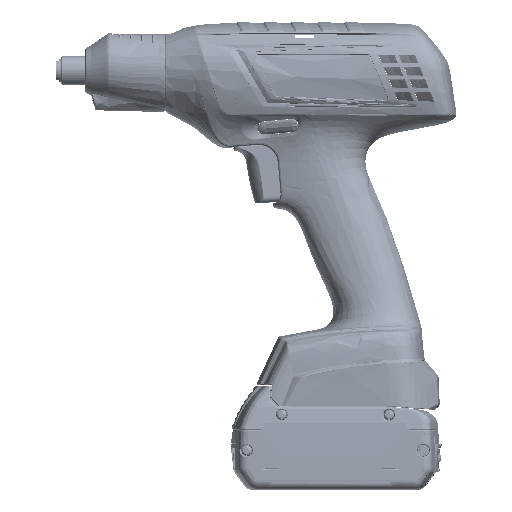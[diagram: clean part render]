
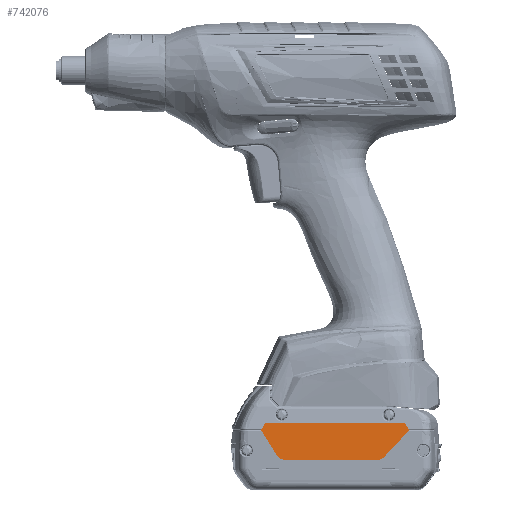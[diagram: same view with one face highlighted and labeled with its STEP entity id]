
A CAD part, top view. The second image highlights one B-rep face of the part: STEP entity #742076.
In plain terms, the highlighted planar face has unit normal (0, 0.018, 1) as drawn and (1, 0, -0.017) by its records, which use the part's own axes.
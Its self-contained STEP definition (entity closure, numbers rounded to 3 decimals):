
#579161=DIRECTION('',(0.,1.,0.));
#579162=VECTOR('',#579161,72.783);
#579163=CARTESIAN_POINT('',(36.351,-8.822,8.6));
#579164=LINE('21674',#579163,#579162);
#579225=DIRECTION('',(-0.013,-0.684,
-0.729));
#579226=VECTOR('',#579225,19.551);
#579227=CARTESIAN_POINT('',(36.672,1.088,
27.02));
#579228=LINE('20189',#579227,#579226);
#579229=CARTESIAN_POINT('',(36.7,4.736,28.6));
#579230=CARTESIAN_POINT('',(36.7,4.375,28.6));
#579231=CARTESIAN_POINT('',(36.699,3.686,
28.523));
#579232=CARTESIAN_POINT('',(36.693,2.736,
28.218));
#579233=CARTESIAN_POINT('',(36.685,1.863,
27.733));
#579234=CARTESIAN_POINT('',(36.677,1.335,
27.283));
#579235=CARTESIAN_POINT('',(36.672,1.088,
27.02));
#579237=CARTESIAN_POINT('',(36.659,59.039,
26.25));
#579238=CARTESIAN_POINT('',(36.666,58.794,
26.642));
#579239=CARTESIAN_POINT('',(36.677,58.236,
27.301));
#579240=CARTESIAN_POINT('',(36.69,57.246,
28.015));
#579241=CARTESIAN_POINT('',(36.698,56.116,
28.476));
#579242=CARTESIAN_POINT('',(36.7,55.261,28.6));
#579243=CARTESIAN_POINT('',(36.7,54.799,28.6));
#579245=DIRECTION('',(0.015,-0.53,0.848));
#579246=VECTOR('',#579245,15.821);
#579247=CARTESIAN_POINT('',(36.425,67.423,12.835));
#579248=LINE('20188',#579247,#579246);
#579249=DIRECTION('',(-0.015,0.53,-0.848));
#579250=VECTOR('',#579249,3.332);
#579251=CARTESIAN_POINT('',(36.417,-12.283,12.365));
#579252=LINE('21673',#579251,#579250);
#579281=CARTESIAN_POINT('',(36.351,-8.822,8.6));
#579282=CARTESIAN_POINT('',(36.351,-9.006,8.6));
#579283=CARTESIAN_POINT('',(36.352,-9.348,
8.65));
#579284=CARTESIAN_POINT('',(36.355,-9.8,
8.834));
#579285=CARTESIAN_POINT('',(36.36,-10.196,
9.12));
#579286=CARTESIAN_POINT('',(36.365,-10.42,
9.383));
#579287=CARTESIAN_POINT('',(36.367,-10.518,
9.54));
#580549=DIRECTION('',(0.,1.,0.));
#580550=VECTOR('',#580549,0.061);
#580551=CARTESIAN_POINT('',(36.421,-12.707,12.6));
#580552=LINE('21882',#580551,#580550);
#619469=DIRECTION('',(0.015,0.53,0.848));
#619470=VECTOR('',#619469,3.332);
#619471=CARTESIAN_POINT('',(36.367,65.658,
9.54));
#619472=LINE('21677',#619471,#619470);
#619512=CARTESIAN_POINT('',(36.421,67.847,12.6));
#619513=CARTESIAN_POINT('',(36.421,67.755,12.6));
#619514=CARTESIAN_POINT('',(36.42,67.596,
12.553));
#619515=CARTESIAN_POINT('',(36.418,67.472,
12.443));
#619516=CARTESIAN_POINT('',(36.417,67.423,12.365));
#619518=CARTESIAN_POINT('',(36.421,67.847,12.6));
#619519=CARTESIAN_POINT('',(36.421,67.755,12.6));
#619520=CARTESIAN_POINT('',(36.422,67.596,
12.647));
#619521=CARTESIAN_POINT('',(36.423,67.472,
12.757));
#619522=CARTESIAN_POINT('',(36.425,67.423,12.835));
#620927=DIRECTION('',(0.,-1.,0.));
#620928=VECTOR('',#620927,50.063);
#620929=CARTESIAN_POINT('',(36.7,54.799,28.6));
#620930=LINE('20280',#620929,#620928);
#620946=CARTESIAN_POINT('',(36.423,-12.282,
12.758));
#620947=CARTESIAN_POINT('',(36.423,-12.331,
12.705));
#620948=CARTESIAN_POINT('',(36.421,-12.443,
12.63));
#620949=CARTESIAN_POINT('',(36.421,-12.574,12.6));
#620950=CARTESIAN_POINT('',(36.421,-12.647,12.6));
#624011=CARTESIAN_POINT('',(36.367,65.658,
9.54));
#624012=CARTESIAN_POINT('',(36.365,65.56,
9.383));
#624013=CARTESIAN_POINT('',(36.36,65.336,
9.12));
#624014=CARTESIAN_POINT('',(36.355,64.94,
8.834));
#624015=CARTESIAN_POINT('',(36.352,64.488,
8.65));
#624016=CARTESIAN_POINT('',(36.351,64.146,8.6));
#624017=CARTESIAN_POINT('',(36.351,63.962,8.6));
#678915=CARTESIAN_POINT('',(36.421,-12.707,12.6));
#678916=CARTESIAN_POINT('',(36.421,-12.615,12.6));
#678917=CARTESIAN_POINT('',(36.42,-12.456,
12.553));
#678918=CARTESIAN_POINT('',(36.418,-12.332,
12.443));
#678919=CARTESIAN_POINT('',(36.417,-12.283,12.365));
#722636=CARTESIAN_POINT('',(36.425,67.423,12.835));
#722637=CARTESIAN_POINT('',(36.659,59.039,
26.25));
#722638=VERTEX_POINT('',#722636);
#722639=VERTEX_POINT('',#722637);
#722640=CARTESIAN_POINT('',(36.672,1.088,
27.02));
#722641=CARTESIAN_POINT('',(36.423,-12.282,
12.758));
#722642=VERTEX_POINT('',#722640);
#722643=VERTEX_POINT('',#722641);
#722644=CARTESIAN_POINT('',(36.7,54.799,28.6));
#722645=VERTEX_POINT('',#722644);
#722646=CARTESIAN_POINT('',(36.7,4.736,28.6));
#722647=VERTEX_POINT('',#722646);
#722718=CARTESIAN_POINT('',(36.421,-12.647,12.6));
#722719=VERTEX_POINT('',#722718);
#723836=CARTESIAN_POINT('',(36.421,67.847,12.6));
#723838=VERTEX_POINT('',#723836);
#723841=CARTESIAN_POINT('',(36.417,-12.283,12.365));
#723842=CARTESIAN_POINT('',(36.367,-10.518,
9.54));
#723843=VERTEX_POINT('',#723841);
#723844=VERTEX_POINT('',#723842);
#723845=CARTESIAN_POINT('',(36.351,-8.822,8.6));
#723846=CARTESIAN_POINT('',(36.351,63.962,8.6));
#723847=VERTEX_POINT('',#723845);
#723848=VERTEX_POINT('',#723846);
#723857=CARTESIAN_POINT('',(36.367,65.658,
9.54));
#723858=CARTESIAN_POINT('',(36.417,67.423,12.365));
#723859=VERTEX_POINT('',#723857);
#723860=VERTEX_POINT('',#723858);
#723893=CARTESIAN_POINT('',(36.421,-12.707,12.6));
#723895=VERTEX_POINT('',#723893);
#742040=CARTESIAN_POINT('',(36.7,67.967,28.6));
#742041=DIRECTION('',(1.,0.,-0.017));
#742042=DIRECTION('',(0.,-1.,0.));
#742043=AXIS2_PLACEMENT_3D('',#742040,#742041,#742042);
#742044=PLANE('19727',#742043);
#742046=ORIENTED_EDGE('21673',*,*,#742045,.F.);
#742048=ORIENTED_EDGE('21695',*,*,#742047,.F.);
#742050=ORIENTED_EDGE('21882',*,*,#742049,.T.);
#742052=ORIENTED_EDGE('20577',*,*,#742051,.F.);
#742054=ORIENTED_EDGE('20189',*,*,#742053,.F.);
#742056=ORIENTED_EDGE('20272',*,*,#742055,.F.);
#742058=ORIENTED_EDGE('20280',*,*,#742057,.F.);
#742060=ORIENTED_EDGE('20271',*,*,#742059,.F.);
#742062=ORIENTED_EDGE('20188',*,*,#742061,.F.);
#742064=ORIENTED_EDGE('21925',*,*,#742063,.F.);
#742066=ORIENTED_EDGE('21693',*,*,#742065,.T.);
#742068=ORIENTED_EDGE('21677',*,*,#742067,.F.);
#742070=ORIENTED_EDGE('21696',*,*,#742069,.T.);
#742071=ORIENTED_EDGE('21674',*,*,#741909,.F.);
#742073=ORIENTED_EDGE('21697',*,*,#742072,.T.);
#742074=EDGE_LOOP('19727',(#742046,#742048,#742050,#742052,#742054,#742056,
#742058,#742060,#742062,#742064,#742066,#742068,#742070,#742071,#742073));
#742075=FACE_OUTER_BOUND('19727',#742074,.F.);
#742076=ADVANCED_FACE('19727',(#742075),#742044,.T.);
#579236=B_SPLINE_CURVE_WITH_KNOTS('20272',3,(#579229,#579230,#579231,#579232,
#579233,#579234,#579235),.UNSPECIFIED.,.F.,.F.,(4,1,1,1,4),(0.,0.25,0.5,
0.75,1.),.UNSPECIFIED.);
#579244=B_SPLINE_CURVE_WITH_KNOTS('20271',3,(#579237,#579238,#579239,#579240,
#579241,#579242,#579243),.UNSPECIFIED.,.F.,.F.,(4,1,1,1,4),(0.,0.25,0.5,
0.75,1.),.UNSPECIFIED.);
#579288=B_SPLINE_CURVE_WITH_KNOTS('21697',3,(#579281,#579282,#579283,#579284,
#579285,#579286,#579287),.UNSPECIFIED.,.F.,.F.,(4,1,1,1,4),(0.,0.25,0.5,
0.75,1.),.UNSPECIFIED.);
#619517=B_SPLINE_CURVE_WITH_KNOTS('21693',3,(#619512,#619513,#619514,#619515,
#619516),.UNSPECIFIED.,.F.,.F.,(4,1,4),(0.,0.5,1.),.UNSPECIFIED.);
#619523=B_SPLINE_CURVE_WITH_KNOTS('21925',3,(#619518,#619519,#619520,#619521,
#619522),.UNSPECIFIED.,.F.,.F.,(4,1,4),(0.,0.5,1.),.UNSPECIFIED.);
#620951=B_SPLINE_CURVE_WITH_KNOTS('20577',3,(#620946,#620947,#620948,#620949,
#620950),.UNSPECIFIED.,.F.,.F.,(4,1,4),(0.,0.5,1.),.UNSPECIFIED.);
#624018=B_SPLINE_CURVE_WITH_KNOTS('21696',3,(#624011,#624012,#624013,#624014,
#624015,#624016,#624017),.UNSPECIFIED.,.F.,.F.,(4,1,1,1,4),(0.,0.25,0.5,
0.75,1.),.UNSPECIFIED.);
#678920=B_SPLINE_CURVE_WITH_KNOTS('21695',3,(#678915,#678916,#678917,#678918,
#678919),.UNSPECIFIED.,.F.,.F.,(4,1,4),(0.,0.5,1.),.UNSPECIFIED.);
#741909=EDGE_CURVE('21674',#723847,#723848,#579164,.T.);
#742045=EDGE_CURVE('21673',#723843,#723844,#579252,.T.);
#742047=EDGE_CURVE('21695',#723895,#723843,#678920,.T.);
#742049=EDGE_CURVE('21882',#723895,#722719,#580552,.T.);
#742051=EDGE_CURVE('20577',#722643,#722719,#620951,.T.);
#742053=EDGE_CURVE('20189',#722642,#722643,#579228,.T.);
#742055=EDGE_CURVE('20272',#722647,#722642,#579236,.T.);
#742057=EDGE_CURVE('20280',#722645,#722647,#620930,.T.);
#742059=EDGE_CURVE('20271',#722639,#722645,#579244,.T.);
#742061=EDGE_CURVE('20188',#722638,#722639,#579248,.T.);
#742063=EDGE_CURVE('21925',#723838,#722638,#619523,.T.);
#742065=EDGE_CURVE('21693',#723838,#723860,#619517,.T.);
#742067=EDGE_CURVE('21677',#723859,#723860,#619472,.T.);
#742069=EDGE_CURVE('21696',#723859,#723848,#624018,.T.);
#742072=EDGE_CURVE('21697',#723847,#723844,#579288,.T.);
